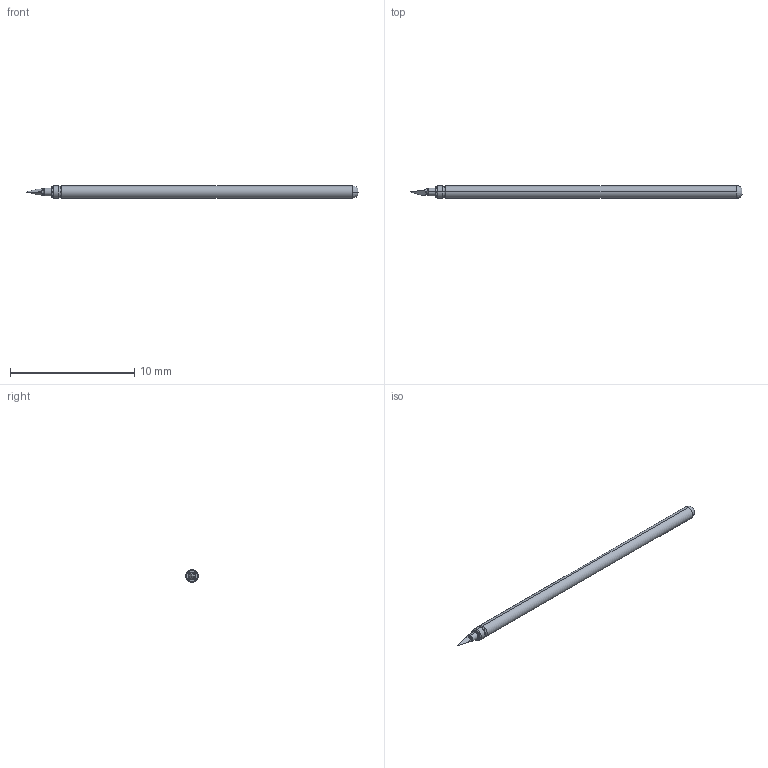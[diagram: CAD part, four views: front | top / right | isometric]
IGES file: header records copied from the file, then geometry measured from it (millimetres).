
Start section: SolidWorks IGES file using analytic representation for surfaces
Global section: file name: Z:\probe solid model mockups\Solidworks models\Parts\LFRE-1T1 FULL.IGS; native system: SolidWorks 2016; preprocessor: SolidWorks 2016; author: mlee; date: 180927.163902; units: inch
Bounding box: 26.67 x 1.02 x 1.02 mm (x, y, z)
Surface area: 81.8 mm2 (no closed solid volume)
Topology: 0 solids, 0 shells, 28 faces, 178 edges, 178 vertices
Faces by surface type: revolution 16, bspline 12
